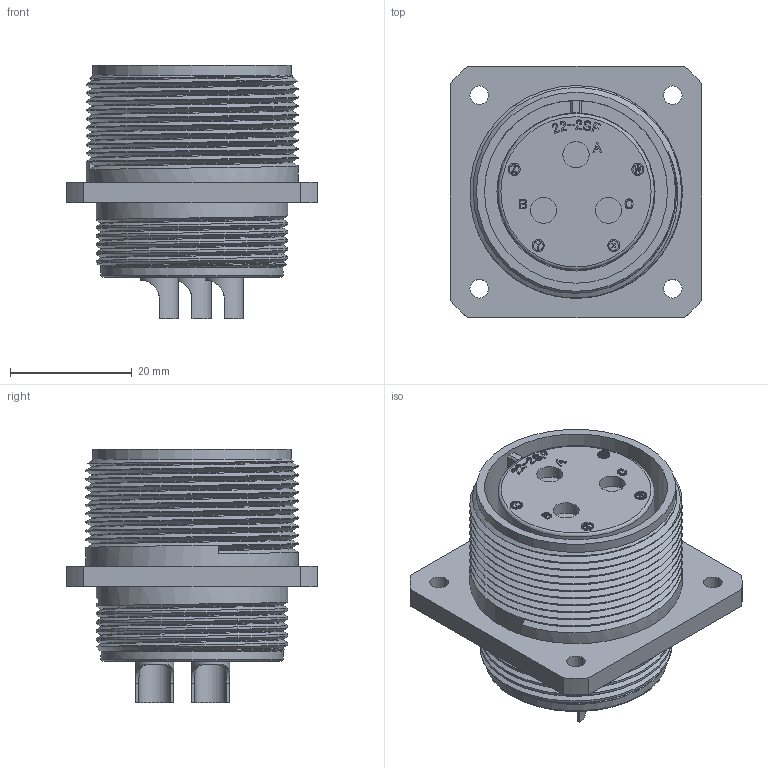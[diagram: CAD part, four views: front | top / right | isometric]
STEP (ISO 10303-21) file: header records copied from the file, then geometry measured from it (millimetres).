
FILE_DESCRIPTION (( 'STEP AP203' ), '1' );
FILE_NAME ('DMS3100A22-2S(D263).STEP', '2022-02-10T07:26:23', ( '' ), ( '' ), 'SwSTEP 2.0', 'SolidWorks 2018', '' );
FILE_SCHEMA (( 'CONFIG_CONTROL_DESIGN' ));
Length unit declared in the file: millimetre
Products named in the file (1): DMS3100A22-2S(D263)
Bounding box: 41.27 x 41.27 x 41.6 mm (x, y, z)
Volume: 26472.9 mm3; surface area: 14148.9 mm2
Topology: 1 solids, 1 shells, 543 faces, 1446 edges, 960 vertices
Faces by surface type: plane 247, bspline 220, cylinder 69, torus 5, cone 2
Full cylindrical faces by diameter (mm): 1.6 x4, 2 x4, 3.05 x4, 4.3 x3, 5.21 x3, 6.25 x3, 23.16 x1, 25.65 x1, 25.94 x1, 27.43 x1, 29.9 x1, 30.03 x1, 31.49 x5, 32.68 x1, 34.88 x10
Entity records: 25356 total; most frequent: CARTESIAN_POINT 13848, ORIENTED_EDGE 2706, DIRECTION 1614, EDGE_CURVE 1353, VERTEX_POINT 916, VECTOR 788, LINE 788, EDGE_LOOP 625
